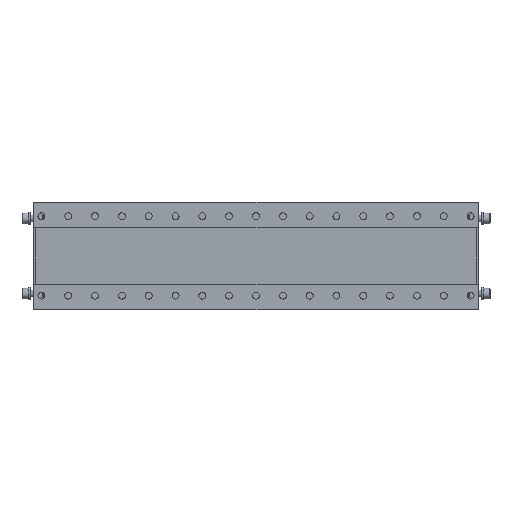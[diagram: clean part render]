
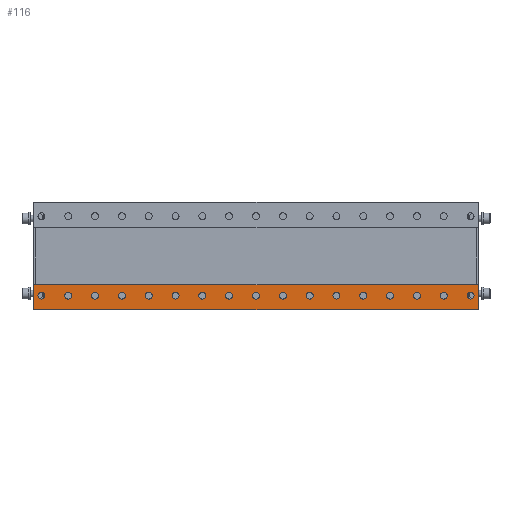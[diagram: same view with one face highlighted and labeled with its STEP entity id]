
A CAD part, top view. The second image highlights one B-rep face of the part: STEP entity #116.
In plain terms, the highlighted planar face has unit normal (0, 0, 1).
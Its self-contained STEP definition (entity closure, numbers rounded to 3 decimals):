
#87 = EDGE_CURVE('',#88,#88,#90,.T.);
#88 = VERTEX_POINT('',#89);
#89 = CARTESIAN_POINT('',(-171.75,-37.,30.));
#90 = CIRCLE('',#91,3.25);
#91 = AXIS2_PLACEMENT_3D('',#92,#93,#94);
#92 = CARTESIAN_POINT('',(-175.,-37.,30.));
#93 = DIRECTION('',(0.,0.,1.));
#94 = DIRECTION('',(1.,0.,-0.));
#116 = ADVANCED_FACE('',(#117,#167,#178,#189,#200,#211,#222,#233,#244,
    #255,#266,#277,#288,#299,#310,#321,#332,#335),#346,.F.);
#117 = FACE_BOUND('',#118,.F.);
#118 = EDGE_LOOP('',(#119,#129,#137,#145,#153,#161));
#119 = ORIENTED_EDGE('',*,*,#120,.F.);
#120 = EDGE_CURVE('',#121,#123,#125,.T.);
#121 = VERTEX_POINT('',#122);
#122 = CARTESIAN_POINT('',(207.,-50.,30.));
#123 = VERTEX_POINT('',#124);
#124 = CARTESIAN_POINT('',(207.,-28.,30.));
#125 = LINE('',#126,#127);
#126 = CARTESIAN_POINT('',(207.,-50.,30.));
#127 = VECTOR('',#128,1.);
#128 = DIRECTION('',(0.,1.,0.));
#129 = ORIENTED_EDGE('',*,*,#130,.T.);
#130 = EDGE_CURVE('',#121,#131,#133,.T.);
#131 = VERTEX_POINT('',#132);
#132 = CARTESIAN_POINT('',(-207.,-50.,30.));
#133 = LINE('',#134,#135);
#134 = CARTESIAN_POINT('',(0.,-50.,30.));
#135 = VECTOR('',#136,1.);
#136 = DIRECTION('',(-1.,0.,0.));
#137 = ORIENTED_EDGE('',*,*,#138,.F.);
#138 = EDGE_CURVE('',#139,#131,#141,.T.);
#139 = VERTEX_POINT('',#140);
#140 = CARTESIAN_POINT('',(-207.,-28.,30.));
#141 = LINE('',#142,#143);
#142 = CARTESIAN_POINT('',(-207.,-28.,30.));
#143 = VECTOR('',#144,1.);
#144 = DIRECTION('',(0.,-1.,0.));
#145 = ORIENTED_EDGE('',*,*,#146,.F.);
#146 = EDGE_CURVE('',#147,#139,#149,.T.);
#147 = VERTEX_POINT('',#148);
#148 = CARTESIAN_POINT('',(-206.,-27.,30.));
#149 = LINE('',#150,#151);
#150 = CARTESIAN_POINT('',(-207.,-28.,30.));
#151 = VECTOR('',#152,1.);
#152 = DIRECTION('',(-0.707,-0.707,-0.));
#153 = ORIENTED_EDGE('',*,*,#154,.F.);
#154 = EDGE_CURVE('',#155,#147,#157,.T.);
#155 = VERTEX_POINT('',#156);
#156 = CARTESIAN_POINT('',(206.,-27.,30.));
#157 = LINE('',#158,#159);
#158 = CARTESIAN_POINT('',(0.,-27.,30.));
#159 = VECTOR('',#160,1.);
#160 = DIRECTION('',(-1.,0.,0.));
#161 = ORIENTED_EDGE('',*,*,#162,.F.);
#162 = EDGE_CURVE('',#123,#155,#163,.T.);
#163 = LINE('',#164,#165);
#164 = CARTESIAN_POINT('',(206.,-27.,30.));
#165 = VECTOR('',#166,1.);
#166 = DIRECTION('',(-0.707,0.707,-0.));
#167 = FACE_BOUND('',#168,.F.);
#168 = EDGE_LOOP('',(#169));
#169 = ORIENTED_EDGE('',*,*,#170,.F.);
#170 = EDGE_CURVE('',#171,#171,#173,.T.);
#171 = VERTEX_POINT('',#172);
#172 = CARTESIAN_POINT('',(203.25,-37.,30.));
#173 = CIRCLE('',#174,3.25);
#174 = AXIS2_PLACEMENT_3D('',#175,#176,#177);
#175 = CARTESIAN_POINT('',(200.,-37.,30.));
#176 = DIRECTION('',(0.,0.,-1.));
#177 = DIRECTION('',(1.,0.,0.));
#178 = FACE_BOUND('',#179,.F.);
#179 = EDGE_LOOP('',(#180));
#180 = ORIENTED_EDGE('',*,*,#181,.F.);
#181 = EDGE_CURVE('',#182,#182,#184,.T.);
#182 = VERTEX_POINT('',#183);
#183 = CARTESIAN_POINT('',(178.25,-37.,30.));
#184 = CIRCLE('',#185,3.25);
#185 = AXIS2_PLACEMENT_3D('',#186,#187,#188);
#186 = CARTESIAN_POINT('',(175.,-37.,30.));
#187 = DIRECTION('',(0.,0.,-1.));
#188 = DIRECTION('',(1.,0.,0.));
#189 = FACE_BOUND('',#190,.F.);
#190 = EDGE_LOOP('',(#191));
#191 = ORIENTED_EDGE('',*,*,#192,.F.);
#192 = EDGE_CURVE('',#193,#193,#195,.T.);
#193 = VERTEX_POINT('',#194);
#194 = CARTESIAN_POINT('',(153.25,-37.,30.));
#195 = CIRCLE('',#196,3.25);
#196 = AXIS2_PLACEMENT_3D('',#197,#198,#199);
#197 = CARTESIAN_POINT('',(150.,-37.,30.));
#198 = DIRECTION('',(0.,0.,-1.));
#199 = DIRECTION('',(1.,0.,0.));
#200 = FACE_BOUND('',#201,.F.);
#201 = EDGE_LOOP('',(#202));
#202 = ORIENTED_EDGE('',*,*,#203,.F.);
#203 = EDGE_CURVE('',#204,#204,#206,.T.);
#204 = VERTEX_POINT('',#205);
#205 = CARTESIAN_POINT('',(128.25,-37.,30.));
#206 = CIRCLE('',#207,3.25);
#207 = AXIS2_PLACEMENT_3D('',#208,#209,#210);
#208 = CARTESIAN_POINT('',(125.,-37.,30.));
#209 = DIRECTION('',(-0.,0.,-1.));
#210 = DIRECTION('',(1.,0.,-0.));
#211 = FACE_BOUND('',#212,.F.);
#212 = EDGE_LOOP('',(#213));
#213 = ORIENTED_EDGE('',*,*,#214,.F.);
#214 = EDGE_CURVE('',#215,#215,#217,.T.);
#215 = VERTEX_POINT('',#216);
#216 = CARTESIAN_POINT('',(103.25,-37.,30.));
#217 = CIRCLE('',#218,3.25);
#218 = AXIS2_PLACEMENT_3D('',#219,#220,#221);
#219 = CARTESIAN_POINT('',(100.,-37.,30.));
#220 = DIRECTION('',(0.,0.,-1.));
#221 = DIRECTION('',(1.,0.,0.));
#222 = FACE_BOUND('',#223,.F.);
#223 = EDGE_LOOP('',(#224));
#224 = ORIENTED_EDGE('',*,*,#225,.F.);
#225 = EDGE_CURVE('',#226,#226,#228,.T.);
#226 = VERTEX_POINT('',#227);
#227 = CARTESIAN_POINT('',(78.25,-37.,30.));
#228 = CIRCLE('',#229,3.25);
#229 = AXIS2_PLACEMENT_3D('',#230,#231,#232);
#230 = CARTESIAN_POINT('',(75.,-37.,30.));
#231 = DIRECTION('',(0.,0.,-1.));
#232 = DIRECTION('',(1.,0.,0.));
#233 = FACE_BOUND('',#234,.F.);
#234 = EDGE_LOOP('',(#235));
#235 = ORIENTED_EDGE('',*,*,#236,.F.);
#236 = EDGE_CURVE('',#237,#237,#239,.T.);
#237 = VERTEX_POINT('',#238);
#238 = CARTESIAN_POINT('',(53.25,-37.,30.));
#239 = CIRCLE('',#240,3.25);
#240 = AXIS2_PLACEMENT_3D('',#241,#242,#243);
#241 = CARTESIAN_POINT('',(50.,-37.,30.));
#242 = DIRECTION('',(-0.,0.,-1.));
#243 = DIRECTION('',(1.,0.,-0.));
#244 = FACE_BOUND('',#245,.F.);
#245 = EDGE_LOOP('',(#246));
#246 = ORIENTED_EDGE('',*,*,#247,.F.);
#247 = EDGE_CURVE('',#248,#248,#250,.T.);
#248 = VERTEX_POINT('',#249);
#249 = CARTESIAN_POINT('',(28.25,-37.,30.));
#250 = CIRCLE('',#251,3.25);
#251 = AXIS2_PLACEMENT_3D('',#252,#253,#254);
#252 = CARTESIAN_POINT('',(25.,-37.,30.));
#253 = DIRECTION('',(0.,0.,-1.));
#254 = DIRECTION('',(1.,0.,0.));
#255 = FACE_BOUND('',#256,.F.);
#256 = EDGE_LOOP('',(#257));
#257 = ORIENTED_EDGE('',*,*,#258,.F.);
#258 = EDGE_CURVE('',#259,#259,#261,.T.);
#259 = VERTEX_POINT('',#260);
#260 = CARTESIAN_POINT('',(3.25,-37.,30.));
#261 = CIRCLE('',#262,3.25);
#262 = AXIS2_PLACEMENT_3D('',#263,#264,#265);
#263 = CARTESIAN_POINT('',(0.,-37.,30.));
#264 = DIRECTION('',(0.,0.,-1.));
#265 = DIRECTION('',(1.,0.,0.));
#266 = FACE_BOUND('',#267,.F.);
#267 = EDGE_LOOP('',(#268));
#268 = ORIENTED_EDGE('',*,*,#269,.F.);
#269 = EDGE_CURVE('',#270,#270,#272,.T.);
#270 = VERTEX_POINT('',#271);
#271 = CARTESIAN_POINT('',(-21.75,-37.,30.));
#272 = CIRCLE('',#273,3.25);
#273 = AXIS2_PLACEMENT_3D('',#274,#275,#276);
#274 = CARTESIAN_POINT('',(-25.,-37.,30.));
#275 = DIRECTION('',(0.,0.,-1.));
#276 = DIRECTION('',(1.,0.,0.));
#277 = FACE_BOUND('',#278,.F.);
#278 = EDGE_LOOP('',(#279));
#279 = ORIENTED_EDGE('',*,*,#280,.F.);
#280 = EDGE_CURVE('',#281,#281,#283,.T.);
#281 = VERTEX_POINT('',#282);
#282 = CARTESIAN_POINT('',(-46.75,-37.,30.));
#283 = CIRCLE('',#284,3.25);
#284 = AXIS2_PLACEMENT_3D('',#285,#286,#287);
#285 = CARTESIAN_POINT('',(-50.,-37.,30.));
#286 = DIRECTION('',(0.,0.,-1.));
#287 = DIRECTION('',(1.,0.,0.));
#288 = FACE_BOUND('',#289,.F.);
#289 = EDGE_LOOP('',(#290));
#290 = ORIENTED_EDGE('',*,*,#291,.F.);
#291 = EDGE_CURVE('',#292,#292,#294,.T.);
#292 = VERTEX_POINT('',#293);
#293 = CARTESIAN_POINT('',(-71.75,-37.,30.));
#294 = CIRCLE('',#295,3.25);
#295 = AXIS2_PLACEMENT_3D('',#296,#297,#298);
#296 = CARTESIAN_POINT('',(-75.,-37.,30.));
#297 = DIRECTION('',(0.,0.,-1.));
#298 = DIRECTION('',(1.,0.,0.));
#299 = FACE_BOUND('',#300,.F.);
#300 = EDGE_LOOP('',(#301));
#301 = ORIENTED_EDGE('',*,*,#302,.F.);
#302 = EDGE_CURVE('',#303,#303,#305,.T.);
#303 = VERTEX_POINT('',#304);
#304 = CARTESIAN_POINT('',(-96.75,-37.,30.));
#305 = CIRCLE('',#306,3.25);
#306 = AXIS2_PLACEMENT_3D('',#307,#308,#309);
#307 = CARTESIAN_POINT('',(-100.,-37.,30.));
#308 = DIRECTION('',(0.,0.,-1.));
#309 = DIRECTION('',(1.,0.,0.));
#310 = FACE_BOUND('',#311,.F.);
#311 = EDGE_LOOP('',(#312));
#312 = ORIENTED_EDGE('',*,*,#313,.F.);
#313 = EDGE_CURVE('',#314,#314,#316,.T.);
#314 = VERTEX_POINT('',#315);
#315 = CARTESIAN_POINT('',(-121.75,-37.,30.));
#316 = CIRCLE('',#317,3.25);
#317 = AXIS2_PLACEMENT_3D('',#318,#319,#320);
#318 = CARTESIAN_POINT('',(-125.,-37.,30.));
#319 = DIRECTION('',(-0.,0.,-1.));
#320 = DIRECTION('',(1.,0.,-0.));
#321 = FACE_BOUND('',#322,.F.);
#322 = EDGE_LOOP('',(#323));
#323 = ORIENTED_EDGE('',*,*,#324,.F.);
#324 = EDGE_CURVE('',#325,#325,#327,.T.);
#325 = VERTEX_POINT('',#326);
#326 = CARTESIAN_POINT('',(-146.75,-37.,30.));
#327 = CIRCLE('',#328,3.25);
#328 = AXIS2_PLACEMENT_3D('',#329,#330,#331);
#329 = CARTESIAN_POINT('',(-150.,-37.,30.));
#330 = DIRECTION('',(0.,0.,-1.));
#331 = DIRECTION('',(1.,0.,0.));
#332 = FACE_BOUND('',#333,.F.);
#333 = EDGE_LOOP('',(#334));
#334 = ORIENTED_EDGE('',*,*,#87,.T.);
#335 = FACE_BOUND('',#336,.F.);
#336 = EDGE_LOOP('',(#337));
#337 = ORIENTED_EDGE('',*,*,#338,.F.);
#338 = EDGE_CURVE('',#339,#339,#341,.T.);
#339 = VERTEX_POINT('',#340);
#340 = CARTESIAN_POINT('',(-196.75,-37.,30.));
#341 = CIRCLE('',#342,3.25);
#342 = AXIS2_PLACEMENT_3D('',#343,#344,#345);
#343 = CARTESIAN_POINT('',(-200.,-37.,30.));
#344 = DIRECTION('',(0.,0.,-1.));
#345 = DIRECTION('',(1.,0.,0.));
#346 = PLANE('',#347);
#347 = AXIS2_PLACEMENT_3D('',#348,#349,#350);
#348 = CARTESIAN_POINT('',(0.,0.,30.));
#349 = DIRECTION('',(0.,0.,-1.));
#350 = DIRECTION('',(-1.,0.,0.));
